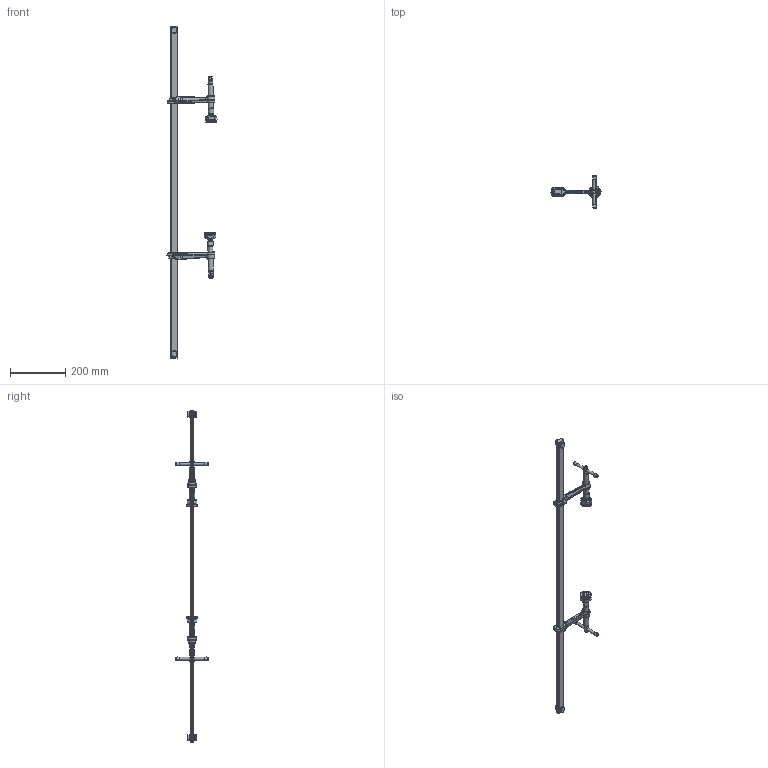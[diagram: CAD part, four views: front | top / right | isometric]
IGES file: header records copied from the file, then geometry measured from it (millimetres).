
Start section: ZWSOFT
Global section: file name: SLV100M_S.igs; native system: ZW3D; preprocessor: 1.0; author: ZW3D; organization: ZWSOFT; date: 150710.140450; units: millimetre
Bounding box: 180.81 x 118 x 1200 mm (x, y, z)
Surface area: 176966.3 mm2 (no closed solid volume)
Topology: 0 solids, 0 shells, 888 faces, 4630 edges, 4332 vertices
Faces by surface type: bspline 888
